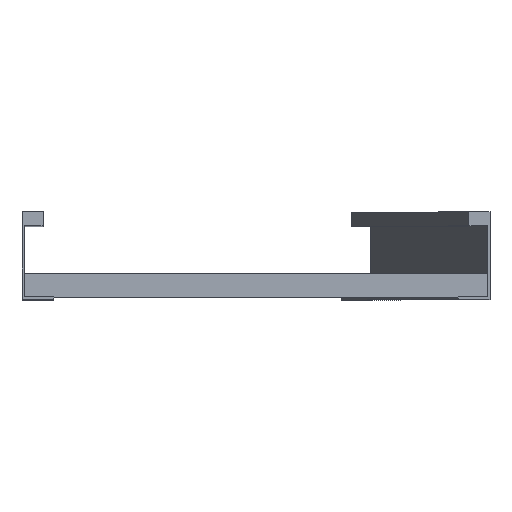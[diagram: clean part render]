
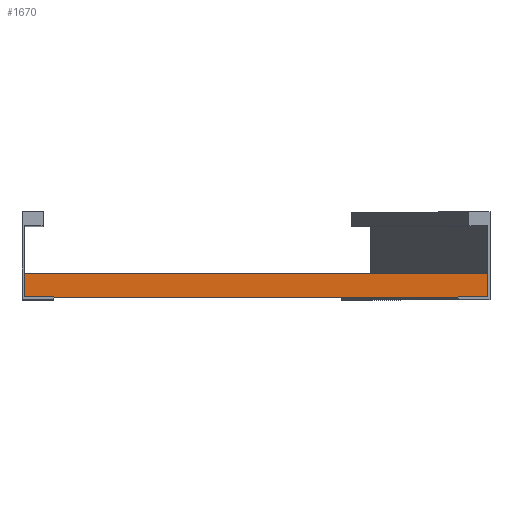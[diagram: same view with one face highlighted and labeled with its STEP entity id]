
A CAD part, top view. The second image highlights one B-rep face of the part: STEP entity #1670.
In plain terms, the highlighted planar face has unit normal (0, 0, 1).
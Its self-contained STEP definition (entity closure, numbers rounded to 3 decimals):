
#21 = CARTESIAN_POINT ( 'NONE',  ( 198., 0., 20.25 ) ) ;
#89 = PLANE ( 'NONE',  #2550 ) ;
#118 = LINE ( 'NONE', #1805, #525 ) ;
#314 = LINE ( 'NONE', #2002, #911 ) ;
#525 = VECTOR ( 'NONE', #1529, 1000. ) ;
#637 = CARTESIAN_POINT ( 'NONE',  ( -198., 0., 20.25 ) ) ;
#690 = DIRECTION ( 'NONE',  ( 0., 1., 0. ) ) ;
#838 = VECTOR ( 'NONE', #3319, 1000. ) ;
#911 = VECTOR ( 'NONE', #1983, 1000. ) ;
#984 = EDGE_CURVE ( 'NONE', #3402, #1947, #2191, .T. ) ;
#1017 = CARTESIAN_POINT ( 'NONE',  ( -198., 20., 20.25 ) ) ;
#1115 = CARTESIAN_POINT ( 'NONE',  ( 198., 20., 20.25 ) ) ;
#1168 = VECTOR ( 'NONE', #3085, 1000. ) ;
#1417 = ORIENTED_EDGE ( 'NONE', *, *, #3095, .F. ) ;
#1529 = DIRECTION ( 'NONE',  ( -1., 0., 0. ) ) ;
#1594 = ORIENTED_EDGE ( 'NONE', *, *, #984, .F. ) ;
#1670 = ADVANCED_FACE ( 'NONE', ( #3449 ), #89, .F. ) ;
#1705 = CARTESIAN_POINT ( 'NONE',  ( 198., 20., 20.25 ) ) ;
#1796 = ORIENTED_EDGE ( 'NONE', *, *, #2462, .T. ) ;
#1805 = CARTESIAN_POINT ( 'NONE',  ( 198., 0., 20.25 ) ) ;
#1947 = VERTEX_POINT ( 'NONE', #21 ) ;
#1983 = DIRECTION ( 'NONE',  ( 0., -1., 0. ) ) ;
#1984 = LINE ( 'NONE', #1705, #1168 ) ;
#2002 = CARTESIAN_POINT ( 'NONE',  ( -198., 20., 20.25 ) ) ;
#2055 = DIRECTION ( 'NONE',  ( 0., 0., -1. ) ) ;
#2169 = EDGE_LOOP ( 'NONE', ( #1796, #1417, #1594, #3026 ) ) ;
#2191 = LINE ( 'NONE', #1115, #838 ) ;
#2462 = EDGE_CURVE ( 'NONE', #3060, #2463, #314, .T. ) ;
#2463 = VERTEX_POINT ( 'NONE', #637 ) ;
#2550 = AXIS2_PLACEMENT_3D ( 'NONE', #2856, #2055, #690 ) ;
#2856 = CARTESIAN_POINT ( 'NONE',  ( 198., 20., 20.25 ) ) ;
#2993 = EDGE_CURVE ( 'NONE', #3402, #3060, #1984, .T. ) ;
#3026 = ORIENTED_EDGE ( 'NONE', *, *, #2993, .T. ) ;
#3060 = VERTEX_POINT ( 'NONE', #1017 ) ;
#3085 = DIRECTION ( 'NONE',  ( -1., 0., 0. ) ) ;
#3095 = EDGE_CURVE ( 'NONE', #1947, #2463, #118, .T. ) ;
#3115 = CARTESIAN_POINT ( 'NONE',  ( 198., 20., 20.25 ) ) ;
#3319 = DIRECTION ( 'NONE',  ( 0., -1., 0. ) ) ;
#3402 = VERTEX_POINT ( 'NONE', #3115 ) ;
#3449 = FACE_OUTER_BOUND ( 'NONE', #2169, .T. ) ;
